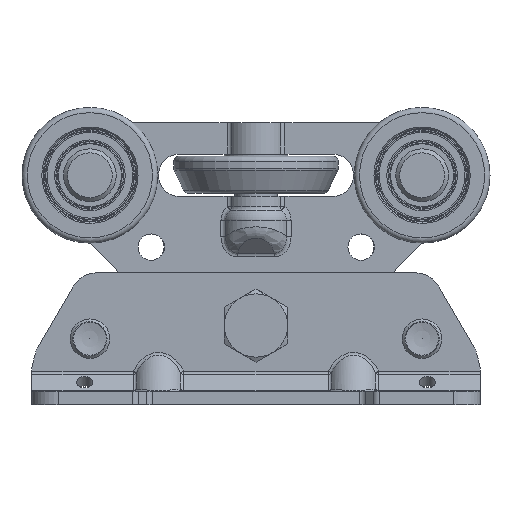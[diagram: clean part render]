
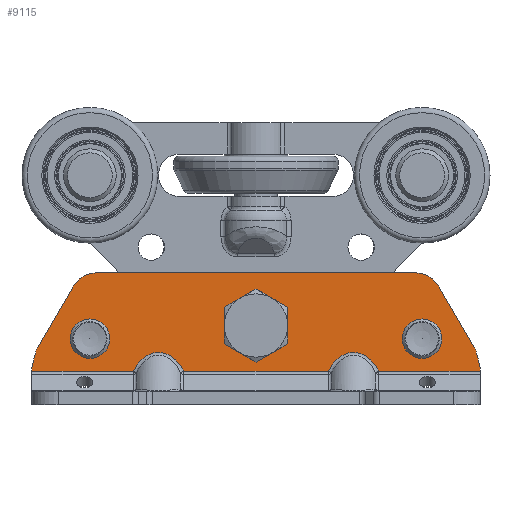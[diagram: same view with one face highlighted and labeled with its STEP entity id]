
A CAD part, left-side view. The second image highlights one B-rep face of the part: STEP entity #9115.
In plain terms, the highlighted planar face has unit normal (-1, 0, 0) as drawn and (1, 0, 0) by its records, which use the part's own axes.
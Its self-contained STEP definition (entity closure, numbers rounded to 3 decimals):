
#374=ELLIPSE('',#10342,16.263,11.5);
#375=ELLIPSE('',#10343,16.263,11.5);
#667=CIRCLE('',#10319,10.);
#669=CIRCLE('',#10322,10.);
#672=CIRCLE('',#10327,7.);
#674=CIRCLE('',#10330,7.);
#675=CIRCLE('',#10333,10.);
#677=CIRCLE('',#10337,9.);
#679=CIRCLE('',#10340,9.);
#680=CIRCLE('',#10341,10.);
#681=CIRCLE('',#10344,8.05);
#1158=PLANE('',#10339);
#1678=LINE('',#15429,#2309);
#1682=LINE('',#15446,#2313);
#1686=LINE('',#15460,#2317);
#1688=LINE('',#15466,#2319);
#1689=LINE('',#15470,#2320);
#1690=LINE('',#15474,#2321);
#1691=LINE('',#15476,#2322);
#1692=LINE('',#15478,#2323);
#1693=LINE('',#15482,#2324);
#1694=LINE('',#15484,#2325);
#2309=VECTOR('',#12024,1000.);
#2313=VECTOR('',#12042,1000.);
#2317=VECTOR('',#12054,1000.);
#2319=VECTOR('',#12064,1000.);
#2320=VECTOR('',#12067,1000.);
#2321=VECTOR('',#12070,1000.);
#2322=VECTOR('',#12071,1000.);
#2323=VECTOR('',#12074,1000.);
#2324=VECTOR('',#12077,1000.);
#2325=VECTOR('',#12078,1000.);
#3438=ORIENTED_EDGE('',*,*,#5522,.F.);
#3439=ORIENTED_EDGE('',*,*,#5526,.F.);
#3440=ORIENTED_EDGE('',*,*,#5528,.F.);
#3441=ORIENTED_EDGE('',*,*,#5520,.F.);
#3442=ORIENTED_EDGE('',*,*,#5504,.F.);
#3443=ORIENTED_EDGE('',*,*,#5512,.F.);
#3444=ORIENTED_EDGE('',*,*,#5508,.F.);
#3445=ORIENTED_EDGE('',*,*,#5530,.T.);
#3446=ORIENTED_EDGE('',*,*,#5531,.F.);
#3447=ORIENTED_EDGE('',*,*,#5532,.F.);
#3448=ORIENTED_EDGE('',*,*,#5533,.F.);
#3449=ORIENTED_EDGE('',*,*,#5534,.F.);
#3450=ORIENTED_EDGE('',*,*,#5535,.F.);
#3451=ORIENTED_EDGE('',*,*,#5536,.T.);
#3452=ORIENTED_EDGE('',*,*,#5537,.F.);
#3453=ORIENTED_EDGE('',*,*,#5538,.T.);
#3454=ORIENTED_EDGE('',*,*,#5539,.F.);
#3455=ORIENTED_EDGE('',*,*,#5540,.T.);
#3456=ORIENTED_EDGE('',*,*,#5517,.F.);
#3457=ORIENTED_EDGE('',*,*,#5541,.T.);
#3458=ORIENTED_EDGE('',*,*,#5515,.T.);
#5504=EDGE_CURVE('',#6574,#6575,#667,.T.);
#5508=EDGE_CURVE('',#6578,#6579,#669,.T.);
#5512=EDGE_CURVE('',#6579,#6574,#1678,.T.);
#5515=EDGE_CURVE('',#6583,#6583,#672,.T.);
#5517=EDGE_CURVE('',#6585,#6585,#674,.T.);
#5520=EDGE_CURVE('',#6575,#6587,#1682,.T.);
#5522=EDGE_CURVE('',#6589,#6590,#675,.T.);
#5526=EDGE_CURVE('',#6593,#6589,#1686,.T.);
#5528=EDGE_CURVE('',#6587,#6593,#677,.T.);
#5530=EDGE_CURVE('',#6578,#6594,#1688,.T.);
#5531=EDGE_CURVE('',#6595,#6594,#679,.T.);
#5532=EDGE_CURVE('',#6596,#6595,#1689,.T.);
#5533=EDGE_CURVE('',#6597,#6596,#680,.T.);
#5534=EDGE_CURVE('',#6598,#6597,#1690,.T.);
#5535=EDGE_CURVE('',#6366,#6598,#1691,.T.);
#5536=EDGE_CURVE('',#6366,#6365,#374,.T.);
#5537=EDGE_CURVE('',#6599,#6365,#1692,.T.);
#5538=EDGE_CURVE('',#6599,#6600,#375,.T.);
#5539=EDGE_CURVE('',#6601,#6600,#1693,.T.);
#5540=EDGE_CURVE('',#6601,#6590,#1694,.T.);
#5541=EDGE_CURVE('',#6602,#6602,#681,.T.);
#6365=VERTEX_POINT('',#14384);
#6366=VERTEX_POINT('',#14388);
#6574=VERTEX_POINT('',#15412);
#6575=VERTEX_POINT('',#15413);
#6578=VERTEX_POINT('',#15421);
#6579=VERTEX_POINT('',#15422);
#6583=VERTEX_POINT('',#15435);
#6585=VERTEX_POINT('',#15440);
#6587=VERTEX_POINT('',#15444);
#6589=VERTEX_POINT('',#15450);
#6590=VERTEX_POINT('',#15452);
#6593=VERTEX_POINT('',#15459);
#6594=VERTEX_POINT('',#15467);
#6595=VERTEX_POINT('',#15469);
#6596=VERTEX_POINT('',#15471);
#6597=VERTEX_POINT('',#15473);
#6598=VERTEX_POINT('',#15475);
#6599=VERTEX_POINT('',#15479);
#6600=VERTEX_POINT('',#15481);
#6601=VERTEX_POINT('',#15483);
#6602=VERTEX_POINT('',#15486);
#7384=EDGE_LOOP('',(#3438,#3439,#3440,#3441,#3442,#3443,#3444,#3445,#3446,
#3447,#3448,#3449,#3450,#3451,#3452,#3453,#3454,#3455));
#7385=EDGE_LOOP('',(#3456));
#7386=EDGE_LOOP('',(#3457));
#7387=EDGE_LOOP('',(#3458));
#8231=FACE_BOUND('',#7384,.T.);
#8232=FACE_BOUND('',#7385,.T.);
#8233=FACE_BOUND('',#7386,.T.);
#8234=FACE_BOUND('',#7387,.T.);
#9115=ADVANCED_FACE('',(#8231,#8232,#8233,#8234),#1158,.F.);
#10319=AXIS2_PLACEMENT_3D('',#15411,#12008,#12009);
#10322=AXIS2_PLACEMENT_3D('',#15420,#12016,#12017);
#10327=AXIS2_PLACEMENT_3D('',#15434,#12030,#12031);
#10330=AXIS2_PLACEMENT_3D('',#15439,#12036,#12037);
#10333=AXIS2_PLACEMENT_3D('',#15451,#12046,#12047);
#10337=AXIS2_PLACEMENT_3D('',#15463,#12058,#12059);
#10339=AXIS2_PLACEMENT_3D('',#15465,#12062,#12063);
#10340=AXIS2_PLACEMENT_3D('',#15468,#12065,#12066);
#10341=AXIS2_PLACEMENT_3D('',#15472,#12068,#12069);
#10342=AXIS2_PLACEMENT_3D('',#15477,#12072,#12073);
#10343=AXIS2_PLACEMENT_3D('',#15480,#12075,#12076);
#10344=AXIS2_PLACEMENT_3D('',#15485,#12079,#12080);
#12008=DIRECTION('',(-1.,0.,0.));
#12009=DIRECTION('',(0.,0.,1.));
#12016=DIRECTION('',(-1.,0.,0.));
#12017=DIRECTION('',(0.,0.,1.));
#12024=DIRECTION('',(0.,1.,0.));
#12030=DIRECTION('',(-1.,0.,0.));
#12031=DIRECTION('',(0.,0.,1.));
#12036=DIRECTION('',(1.,0.,0.));
#12037=DIRECTION('',(0.,0.,1.));
#12042=DIRECTION('',(0.,0.5,-0.866));
#12046=DIRECTION('',(-1.,0.,0.));
#12047=DIRECTION('',(0.,-1.,0.));
#12054=DIRECTION('',(0.,0.259,-0.966));
#12058=DIRECTION('',(-1.,0.,0.));
#12059=DIRECTION('',(0.,-1.,0.));
#12062=DIRECTION('',(-1.,0.,0.));
#12063=DIRECTION('',(0.,0.,1.));
#12064=DIRECTION('',(0.,-0.5,-0.866));
#12065=DIRECTION('',(-1.,0.,0.));
#12066=DIRECTION('',(0.,-1.,0.));
#12067=DIRECTION('',(0.,0.259,0.966));
#12068=DIRECTION('',(-1.,0.,0.));
#12069=DIRECTION('',(0.,-1.,0.));
#12070=DIRECTION('',(0.,0.,1.));
#12071=DIRECTION('',(0.,-1.,0.));
#12072=DIRECTION('',(-1.,0.,0.));
#12073=DIRECTION('',(0.,0.,1.));
#12074=DIRECTION('',(0.,-1.,0.));
#12075=DIRECTION('',(-1.,0.,0.));
#12076=DIRECTION('',(0.,0.,1.));
#12077=DIRECTION('',(0.,-1.,0.));
#12078=DIRECTION('',(0.,0.,1.));
#12079=DIRECTION('',(-1.,0.,0.));
#12080=DIRECTION('',(0.,-1.,0.));
#14384=CARTESIAN_POINT('',(-40.,-27.448,12.621));
#14388=CARTESIAN_POINT('',(-40.,-46.552,12.621));
#15411=CARTESIAN_POINT('',(-40.,60.566,40.));
#15412=CARTESIAN_POINT('',(-40.,60.566,50.));
#15413=CARTESIAN_POINT('',(-40.,69.226,45.));
#15420=CARTESIAN_POINT('',(-40.,-60.566,40.));
#15421=CARTESIAN_POINT('',(-40.,-69.226,45.));
#15422=CARTESIAN_POINT('',(-40.,-60.566,50.));
#15429=CARTESIAN_POINT('',(-40.,-85.,50.));
#15434=CARTESIAN_POINT('',(-40.,-63.,25.));
#15435=CARTESIAN_POINT('',(-40.,-63.,32.));
#15439=CARTESIAN_POINT('',(-40.,63.,25.));
#15440=CARTESIAN_POINT('',(-40.,63.,32.));
#15444=CARTESIAN_POINT('',(-40.,82.794,21.5));
#15446=CARTESIAN_POINT('',(-40.,88.325,11.92));
#15450=CARTESIAN_POINT('',(-40.,84.659,15.724));
#15451=CARTESIAN_POINT('',(-40.,75.,13.136));
#15452=CARTESIAN_POINT('',(-40.,85.,13.136));
#15459=CARTESIAN_POINT('',(-40.,83.693,19.329));
#15460=CARTESIAN_POINT('',(-40.,74.725,52.798));
#15463=CARTESIAN_POINT('',(-40.,75.,17.));
#15465=CARTESIAN_POINT('',(-40.,-85.,10.));
#15466=CARTESIAN_POINT('',(-40.,-88.325,11.92));
#15467=CARTESIAN_POINT('',(-40.,-82.794,21.5));
#15468=CARTESIAN_POINT('',(-40.,-75.,17.));
#15469=CARTESIAN_POINT('',(-40.,-83.693,19.329));
#15470=CARTESIAN_POINT('',(-40.,-86.113,10.298));
#15471=CARTESIAN_POINT('',(-40.,-84.659,15.724));
#15472=CARTESIAN_POINT('',(-40.,-75.,13.136));
#15473=CARTESIAN_POINT('',(-40.,-85.,13.136));
#15474=CARTESIAN_POINT('',(-40.,-85.,10.));
#15475=CARTESIAN_POINT('',(-40.,-85.,12.621));
#15476=CARTESIAN_POINT('',(-40.,-85.,12.621));
#15477=CARTESIAN_POINT('',(-40.,-37.,3.564));
#15478=CARTESIAN_POINT('',(-40.,-85.,12.621));
#15479=CARTESIAN_POINT('',(-40.,27.448,12.621));
#15480=CARTESIAN_POINT('',(-40.,37.,3.564));
#15481=CARTESIAN_POINT('',(-40.,46.552,12.621));
#15482=CARTESIAN_POINT('',(-40.,-85.,12.621));
#15483=CARTESIAN_POINT('',(-40.,85.,12.621));
#15484=CARTESIAN_POINT('',(-40.,85.,10.));
#15485=CARTESIAN_POINT('',(-40.,0.,30.));
#15486=CARTESIAN_POINT('',(-40.,-8.05,30.));
